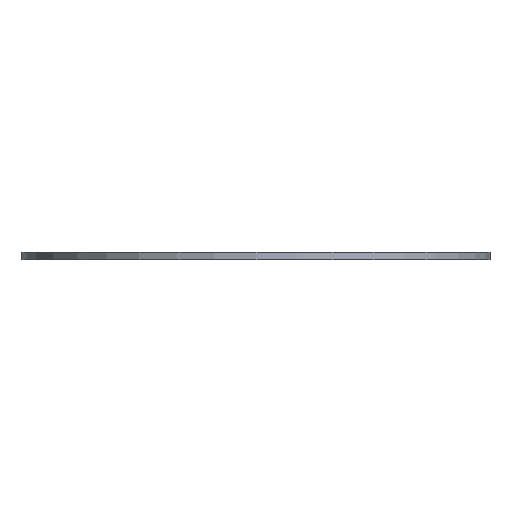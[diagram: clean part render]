
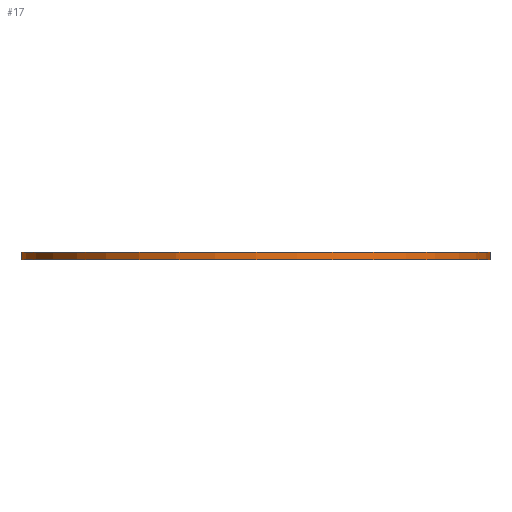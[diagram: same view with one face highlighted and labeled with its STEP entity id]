
A CAD part, left-side view. The second image highlights one B-rep face of the part: STEP entity #17.
In plain terms, the highlighted cylindrical face has radius 30.5 mm (diameter 61 mm), a partial arc.
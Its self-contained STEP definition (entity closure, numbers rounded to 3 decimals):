
#17 = ADVANCED_FACE('',(#18),#32,.T.);
#18 = FACE_BOUND('',#19,.F.);
#19 = EDGE_LOOP('',(#20,#55,#84,#112));
#20 = ORIENTED_EDGE('',*,*,#21,.T.);
#21 = EDGE_CURVE('',#22,#24,#26,.T.);
#22 = VERTEX_POINT('',#23);
#23 = CARTESIAN_POINT('',(-18.,30.5,0.));
#24 = VERTEX_POINT('',#25);
#25 = CARTESIAN_POINT('',(-18.,30.5,1.));
#26 = SURFACE_CURVE('',#27,(#31,#43),.PCURVE_S1.);
#27 = LINE('',#28,#29);
#28 = CARTESIAN_POINT('',(-18.,30.5,0.));
#29 = VECTOR('',#30,1.);
#30 = DIRECTION('',(0.,0.,1.));
#31 = PCURVE('',#32,#37);
#32 = CYLINDRICAL_SURFACE('',#33,30.5);
#33 = AXIS2_PLACEMENT_3D('',#34,#35,#36);
#34 = CARTESIAN_POINT('',(-18.,0.,0.));
#35 = DIRECTION('',(-0.,-0.,-1.));
#36 = DIRECTION('',(1.,0.,0.));
#37 = DEFINITIONAL_REPRESENTATION('',(#38),#42);
#38 = LINE('',#39,#40);
#39 = CARTESIAN_POINT('',(-1.571,0.));
#40 = VECTOR('',#41,1.);
#41 = DIRECTION('',(-0.,-1.));
#42 = ( GEOMETRIC_REPRESENTATION_CONTEXT(2) 
PARAMETRIC_REPRESENTATION_CONTEXT() REPRESENTATION_CONTEXT('2D SPACE',''
  ) );
#43 = PCURVE('',#44,#49);
#44 = PLANE('',#45);
#45 = AXIS2_PLACEMENT_3D('',#46,#47,#48);
#46 = CARTESIAN_POINT('',(18.,30.5,0.));
#47 = DIRECTION('',(0.,-1.,0.));
#48 = DIRECTION('',(-1.,0.,0.));
#49 = DEFINITIONAL_REPRESENTATION('',(#50),#54);
#50 = LINE('',#51,#52);
#51 = CARTESIAN_POINT('',(36.,0.));
#52 = VECTOR('',#53,1.);
#53 = DIRECTION('',(0.,-1.));
#54 = ( GEOMETRIC_REPRESENTATION_CONTEXT(2) 
PARAMETRIC_REPRESENTATION_CONTEXT() REPRESENTATION_CONTEXT('2D SPACE',''
  ) );
#55 = ORIENTED_EDGE('',*,*,#56,.T.);
#56 = EDGE_CURVE('',#24,#57,#59,.T.);
#57 = VERTEX_POINT('',#58);
#58 = CARTESIAN_POINT('',(-18.,-30.5,1.));
#59 = SURFACE_CURVE('',#60,(#65,#72),.PCURVE_S1.);
#60 = CIRCLE('',#61,30.5);
#61 = AXIS2_PLACEMENT_3D('',#62,#63,#64);
#62 = CARTESIAN_POINT('',(-18.,0.,1.));
#63 = DIRECTION('',(0.,0.,1.));
#64 = DIRECTION('',(1.,0.,0.));
#65 = PCURVE('',#32,#66);
#66 = DEFINITIONAL_REPRESENTATION('',(#67),#71);
#67 = LINE('',#68,#69);
#68 = CARTESIAN_POINT('',(-0.,-1.));
#69 = VECTOR('',#70,1.);
#70 = DIRECTION('',(-1.,0.));
#71 = ( GEOMETRIC_REPRESENTATION_CONTEXT(2) 
PARAMETRIC_REPRESENTATION_CONTEXT() REPRESENTATION_CONTEXT('2D SPACE',''
  ) );
#72 = PCURVE('',#73,#78);
#73 = PLANE('',#74);
#74 = AXIS2_PLACEMENT_3D('',#75,#76,#77);
#75 = CARTESIAN_POINT('',(0.,0.,1.));
#76 = DIRECTION('',(0.,0.,1.));
#77 = DIRECTION('',(1.,0.,0.));
#78 = DEFINITIONAL_REPRESENTATION('',(#79),#83);
#79 = CIRCLE('',#80,30.5);
#80 = AXIS2_PLACEMENT_2D('',#81,#82);
#81 = CARTESIAN_POINT('',(-18.,0.));
#82 = DIRECTION('',(1.,0.));
#83 = ( GEOMETRIC_REPRESENTATION_CONTEXT(2) 
PARAMETRIC_REPRESENTATION_CONTEXT() REPRESENTATION_CONTEXT('2D SPACE',''
  ) );
#84 = ORIENTED_EDGE('',*,*,#85,.F.);
#85 = EDGE_CURVE('',#86,#57,#88,.T.);
#86 = VERTEX_POINT('',#87);
#87 = CARTESIAN_POINT('',(-18.,-30.5,0.));
#88 = SURFACE_CURVE('',#89,(#93,#100),.PCURVE_S1.);
#89 = LINE('',#90,#91);
#90 = CARTESIAN_POINT('',(-18.,-30.5,0.));
#91 = VECTOR('',#92,1.);
#92 = DIRECTION('',(0.,0.,1.));
#93 = PCURVE('',#32,#94);
#94 = DEFINITIONAL_REPRESENTATION('',(#95),#99);
#95 = LINE('',#96,#97);
#96 = CARTESIAN_POINT('',(-4.712,0.));
#97 = VECTOR('',#98,1.);
#98 = DIRECTION('',(-0.,-1.));
#99 = ( GEOMETRIC_REPRESENTATION_CONTEXT(2) 
PARAMETRIC_REPRESENTATION_CONTEXT() REPRESENTATION_CONTEXT('2D SPACE',''
  ) );
#100 = PCURVE('',#101,#106);
#101 = PLANE('',#102);
#102 = AXIS2_PLACEMENT_3D('',#103,#104,#105);
#103 = CARTESIAN_POINT('',(-18.,-30.5,0.));
#104 = DIRECTION('',(0.,1.,0.));
#105 = DIRECTION('',(1.,0.,0.));
#106 = DEFINITIONAL_REPRESENTATION('',(#107),#111);
#107 = LINE('',#108,#109);
#108 = CARTESIAN_POINT('',(0.,0.));
#109 = VECTOR('',#110,1.);
#110 = DIRECTION('',(0.,-1.));
#111 = ( GEOMETRIC_REPRESENTATION_CONTEXT(2) 
PARAMETRIC_REPRESENTATION_CONTEXT() REPRESENTATION_CONTEXT('2D SPACE',''
  ) );
#112 = ORIENTED_EDGE('',*,*,#113,.F.);
#113 = EDGE_CURVE('',#22,#86,#114,.T.);
#114 = SURFACE_CURVE('',#115,(#120,#127),.PCURVE_S1.);
#115 = CIRCLE('',#116,30.5);
#116 = AXIS2_PLACEMENT_3D('',#117,#118,#119);
#117 = CARTESIAN_POINT('',(-18.,0.,0.));
#118 = DIRECTION('',(0.,0.,1.));
#119 = DIRECTION('',(1.,0.,0.));
#120 = PCURVE('',#32,#121);
#121 = DEFINITIONAL_REPRESENTATION('',(#122),#126);
#122 = LINE('',#123,#124);
#123 = CARTESIAN_POINT('',(-0.,0.));
#124 = VECTOR('',#125,1.);
#125 = DIRECTION('',(-1.,0.));
#126 = ( GEOMETRIC_REPRESENTATION_CONTEXT(2) 
PARAMETRIC_REPRESENTATION_CONTEXT() REPRESENTATION_CONTEXT('2D SPACE',''
  ) );
#127 = PCURVE('',#128,#133);
#128 = PLANE('',#129);
#129 = AXIS2_PLACEMENT_3D('',#130,#131,#132);
#130 = CARTESIAN_POINT('',(0.,0.,0.));
#131 = DIRECTION('',(0.,0.,1.));
#132 = DIRECTION('',(1.,0.,0.));
#133 = DEFINITIONAL_REPRESENTATION('',(#134),#138);
#134 = CIRCLE('',#135,30.5);
#135 = AXIS2_PLACEMENT_2D('',#136,#137);
#136 = CARTESIAN_POINT('',(-18.,0.));
#137 = DIRECTION('',(1.,0.));
#138 = ( GEOMETRIC_REPRESENTATION_CONTEXT(2) 
PARAMETRIC_REPRESENTATION_CONTEXT() REPRESENTATION_CONTEXT('2D SPACE',''
  ) );
